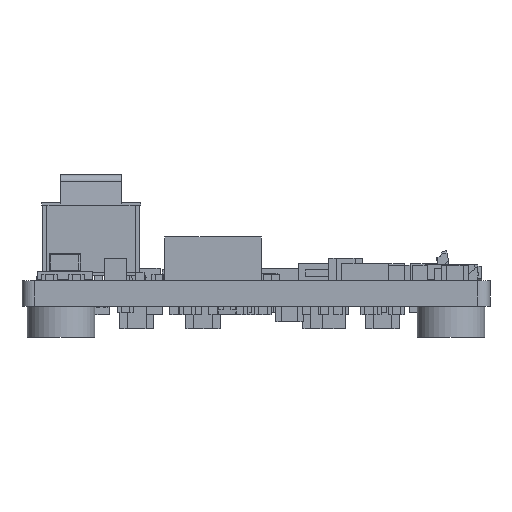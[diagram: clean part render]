
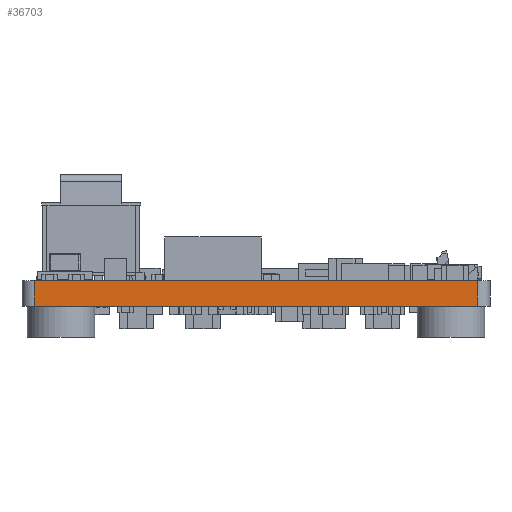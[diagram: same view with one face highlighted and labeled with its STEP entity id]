
A CAD part, left-side view. The second image highlights one B-rep face of the part: STEP entity #36703.
In plain terms, the highlighted planar face has unit normal (-1, 0, 0).
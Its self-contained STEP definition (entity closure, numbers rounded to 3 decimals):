
#4216=FACE_OUTER_BOUND('',#6106,.T.);
#6106=EDGE_LOOP('',(#25210,#25211,#25212,#25213));
#8189=LINE('',#55561,#12533);
#8190=LINE('',#55563,#12534);
#8191=LINE('',#55565,#12535);
#8192=LINE('',#55566,#12536);
#12533=VECTOR('',#44822,1.);
#12534=VECTOR('',#44823,1.);
#12535=VECTOR('',#44824,1.);
#12536=VECTOR('',#44825,1.);
#16877=VERTEX_POINT('',#55559);
#16878=VERTEX_POINT('',#55560);
#16879=VERTEX_POINT('',#55562);
#16880=VERTEX_POINT('',#55564);
#20235=EDGE_CURVE('',#16877,#16878,#8189,.T.);
#20236=EDGE_CURVE('',#16878,#16879,#8190,.T.);
#20237=EDGE_CURVE('',#16880,#16879,#8191,.T.);
#20238=EDGE_CURVE('',#16877,#16880,#8192,.T.);
#25210=ORIENTED_EDGE('',*,*,#20235,.T.);
#25211=ORIENTED_EDGE('',*,*,#20236,.T.);
#25212=ORIENTED_EDGE('',*,*,#20237,.F.);
#25213=ORIENTED_EDGE('',*,*,#20238,.F.);
#35082=PLANE('',#41620);
#36703=ADVANCED_FACE('',(#4216),#35082,.T.);
#41620=AXIS2_PLACEMENT_3D('',#55558,#44820,#44821);
#44820=DIRECTION('center_axis',(-1.,0.,0.));
#44821=DIRECTION('ref_axis',(0.,1.,0.));
#44822=DIRECTION('',(0.,0.,1.));
#44823=DIRECTION('',(0.,1.,0.));
#44824=DIRECTION('',(0.,0.,1.));
#44825=DIRECTION('',(0.,1.,0.));
#55558=CARTESIAN_POINT('Origin',(-2.5,-1.703,-1.637));
#55559=CARTESIAN_POINT('',(-2.5,-1.703,-1.637));
#55560=CARTESIAN_POINT('',(-2.5,-1.703,0.));
#55561=CARTESIAN_POINT('',(-2.5,-1.703,-1.637));
#55562=CARTESIAN_POINT('',(-2.5,26.7,0.));
#55563=CARTESIAN_POINT('',(-2.5,-1.703,0.));
#55564=CARTESIAN_POINT('',(-2.5,26.7,-1.637));
#55565=CARTESIAN_POINT('',(-2.5,26.7,-1.637));
#55566=CARTESIAN_POINT('',(-2.5,-1.703,-1.637));
